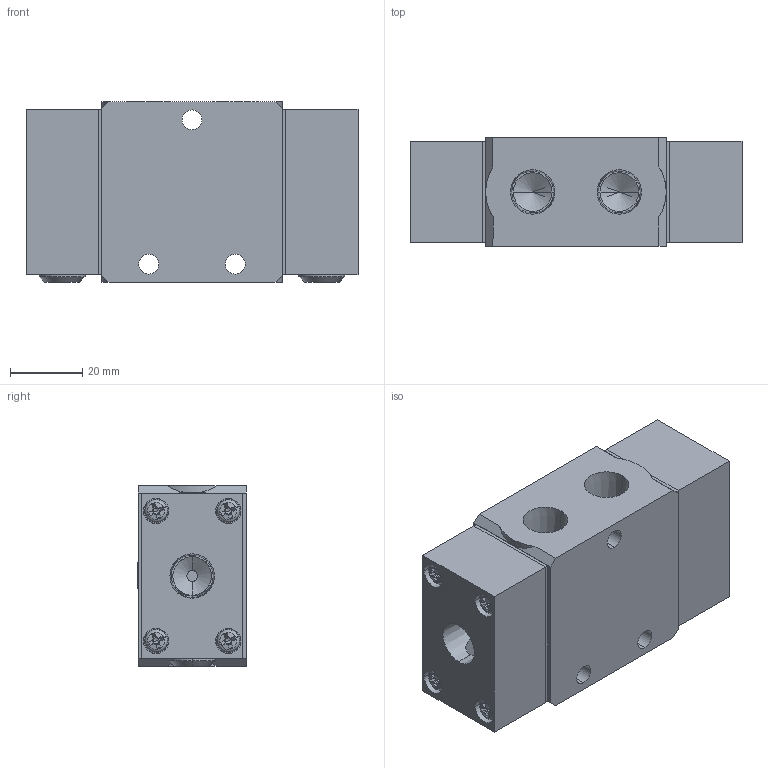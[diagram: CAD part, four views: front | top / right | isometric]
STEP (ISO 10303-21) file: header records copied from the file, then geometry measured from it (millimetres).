
FILE_DESCRIPTION (( 'STEP AP203' ), '1' );
FILE_NAME ('VP2306-02.STEP', '2016-01-13T18:41:55', ( '' ), ( '' ), 'SwSTEP 2.0', 'SolidWorks 2014', '' );
FILE_SCHEMA (( 'CONFIG_CONTROL_DESIGN' ));
Length unit declared in the file: millimetre
Products named in the file (7): VS2306-4; M4; VP2306-02; VS2306-2; 止付1-4; VS2306-MARK; VS2306-1=02
Assembly tree (16 placements, depth 2):
  VP2306-02
    VS2306-1=02
    VS2306-2  x2
    M4  x8
    止付1-4  x2
    VS2306-MARK
    VS2306-4  x2
Bounding box: 92 x 30.1 x 50 mm (x, y, z)
Volume: 114815.6 mm3; surface area: 37659.7 mm2
Topology: 23 solids, 23 shells, 618 faces, 1519 edges, 949 vertices
Faces by surface type: plane 336, cone 112, cylinder 99, torus 32, sphere 20, bspline 19
Entity records: 10908 total; most frequent: CARTESIAN_POINT 2518, ORIENTED_EDGE 1514, DIRECTION 1509, EDGE_CURVE 757, AXIS2_PLACEMENT_3D 504, VECTOR 501, LINE 501, VERTEX_POINT 495
